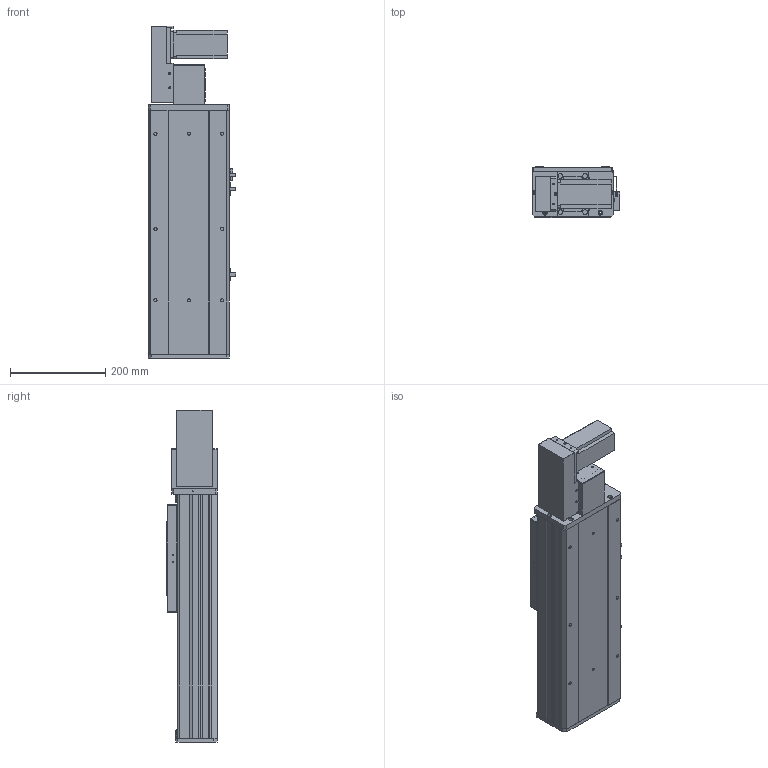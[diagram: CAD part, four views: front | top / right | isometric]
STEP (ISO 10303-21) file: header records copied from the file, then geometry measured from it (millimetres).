
FILE_DESCRIPTION (( 'STEP AP203' ), '1' );
FILE_NAME ('Y170CB-D105-S200-BL-P400W.STEP', '2020-02-20T01:01:53', ( '微软用户' ), ( '微软中国' ), 'SwSTEP 2.0', 'SolidWorks 2017', '' );
FILE_SCHEMA (( 'CONFIG_CONTROL_DESIGN' ));
Length unit declared in the file: millimetre
Products named in the file (18): 17B-耜蚾蟀諉啣----; 70C-雄赽釱-奻-; 0B-萇儂楊擘啣; 0C--雄赽釱俋欶-170; san松下电机400不带刹车----; 70CB-詩湍--; Y70俋欶BR----; Y100-135俋离換覜ん--; 70CB-掛极-; Y170CB-陔俋离換覜結え---; --70CB --喘謫眊楊擘啣-; 70B喘謫眊----; 70CB-耜裔啣-; Y1埴倛裔; 70C--詩湍揤踡え-; B-源倛裔啣; Y170CB-D105-S200-BL-P400W; 70CB--耜裔
Assembly tree (21 placements, depth 2):
  Y170CB-D105-S200-BL-P400W
    B-源倛裔啣
    17B-耜蚾蟀諉啣----
    0B-萇儂楊擘啣
    san松下电机400不带刹车----
    Y70俋欶BR----
    70CB-掛极-
    --70CB --喘謫眊楊擘啣-
    70CB-耜裔啣-  x2
    70C--詩湍揤踡え-  x2
    70CB--耜裔
    70C-雄赽釱-奻-
    0C--雄赽釱俋欶-170
    70CB-詩湍--
    Y100-135俋离換覜ん--  x3
    Y170CB-陔俋离換覜結え---
    70B喘謫眊----
    Y1埴倛裔
Bounding box: 183.5 x 107 x 697 mm (x, y, z)
Volume: 3387768.7 mm3; surface area: 1194275.5 mm2
Topology: 21 solids, 21 shells, 975 faces, 2597 edges, 1722 vertices
Faces by surface type: cylinder 487, plane 464, cone 24
Entity records: 30860 total; most frequent: CARTESIAN_POINT 5616, DIRECTION 5014, ORIENTED_EDGE 4676, EDGE_CURVE 2338, AXIS2_PLACEMENT_3D 1824, VERTEX_POINT 1552, VECTOR 1366, LINE 1366
